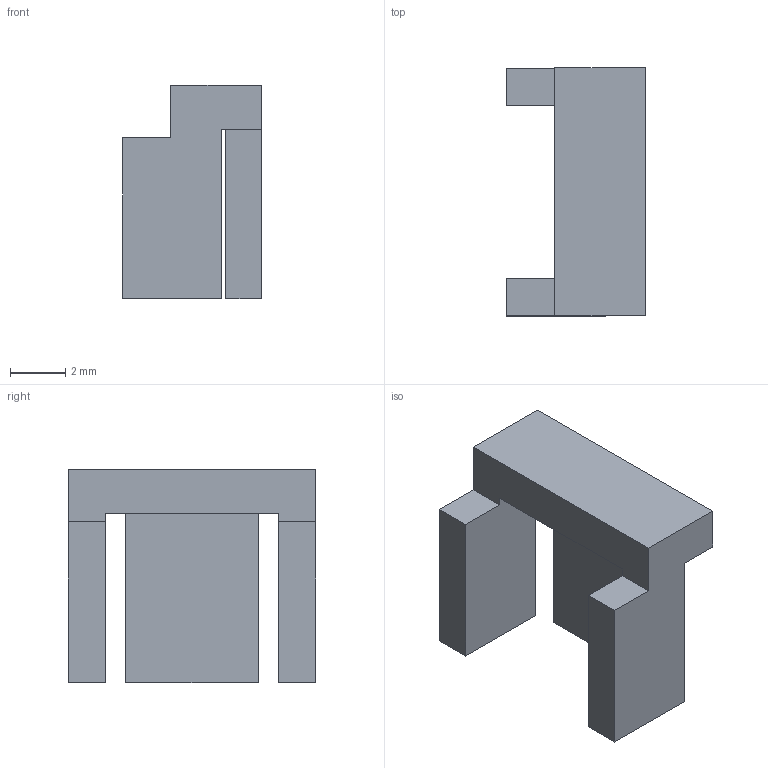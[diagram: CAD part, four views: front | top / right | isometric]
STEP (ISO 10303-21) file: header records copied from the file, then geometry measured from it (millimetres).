
FILE_DESCRIPTION(/* description */ (''),/* implementation_level */ '2;1');
FILE_NAME(/* name */ 'P08.step',/* time_stamp */ '2026-09-15T15:15:03-07:00',/* author */ (''),/* organization */ (''),/* preprocessor_version */ 'ST-DEVELOPER v20.1',/* originating_system */ 'Autodesk Translation Framework v15.8.0.0',/* authorisation */ '');
FILE_SCHEMA (('AUTOMOTIVE_DESIGN { 1 0 10303 214 3 1 1 }'));
Length unit declared in the file: millimetre
Products named in the file (1): 2026-09-15-15-15-03-476
Bounding box: 5.05 x 9 x 7.75 mm (x, y, z)
Volume: 144.2 mm3; surface area: 303.6 mm2
Topology: 1 solids, 1 shells, 24 faces, 66 edges, 44 vertices
Faces by surface type: plane 22, cylinder 2
Entity records: 787 total; most frequent: CARTESIAN_POINT 135, ORIENTED_EDGE 132, DIRECTION 120, EDGE_CURVE 66, LINE 62, VECTOR 62, VERTEX_POINT 44, AXIS2_PLACEMENT_3D 29
